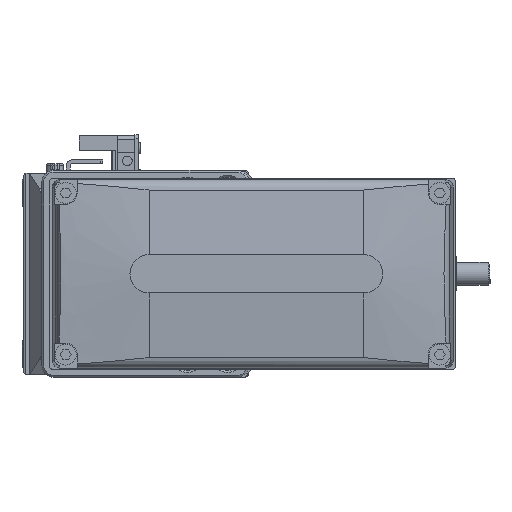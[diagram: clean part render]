
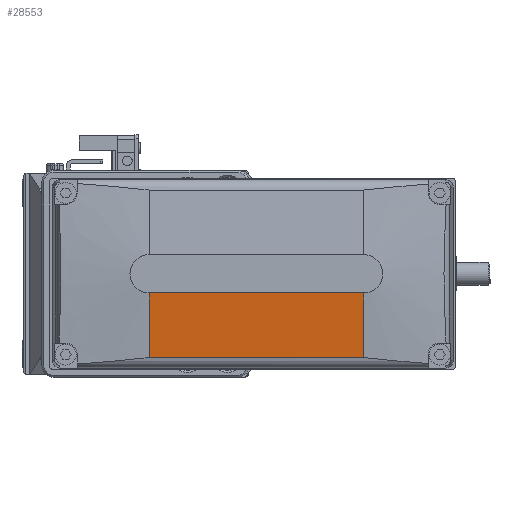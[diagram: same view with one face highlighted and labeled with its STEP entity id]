
A CAD part, left-side view. The second image highlights one B-rep face of the part: STEP entity #28553.
In plain terms, the highlighted planar face has unit normal (-0.996, 0, -0.087).
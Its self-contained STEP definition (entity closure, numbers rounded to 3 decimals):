
#1011 = VERTEX_POINT ( 'NONE', #8235 ) ;
#3229 = LINE ( 'NONE', #34345, #18058 ) ;
#3544 = LINE ( 'NONE', #3629, #8931 ) ;
#3629 = CARTESIAN_POINT ( 'NONE',  ( -50., 128., -5. ) ) ;
#4085 = EDGE_CURVE ( 'NONE', #1011, #9548, #3544, .T. ) ;
#7512 = DIRECTION ( 'NONE',  ( -0.087, 0., 0.996 ) ) ;
#7535 = EDGE_CURVE ( 'NONE', #12889, #9548, #20914, .T. ) ;
#7768 = PLANE ( 'NONE',  #24725 ) ;
#7875 = FACE_OUTER_BOUND ( 'NONE', #25224, .T. ) ;
#8235 = CARTESIAN_POINT ( 'NONE',  ( -50., -28., -5. ) ) ;
#8931 = VECTOR ( 'NONE', #29694, 1000. ) ;
#9548 = VERTEX_POINT ( 'NONE', #30185 ) ;
#11849 = ORIENTED_EDGE ( 'NONE', *, *, #30460, .F. ) ;
#12889 = VERTEX_POINT ( 'NONE', #33645 ) ;
#14137 = ORIENTED_EDGE ( 'NONE', *, *, #35067, .F. ) ;
#15245 = CARTESIAN_POINT ( 'NONE',  ( 43606.406, 28., -499000. ) ) ;
#15247 = VERTEX_POINT ( 'NONE', #36377 ) ;
#18058 = VECTOR ( 'NONE', #37203, 1000. ) ;
#18371 = ORIENTED_EDGE ( 'NONE', *, *, #7535, .F. ) ;
#18551 = DIRECTION ( 'NONE',  ( 0., 1., 0. ) ) ;
#20914 = LINE ( 'NONE', #15245, #35210 ) ;
#21844 = CARTESIAN_POINT ( 'NONE',  ( -48.525, 128., -21.861 ) ) ;
#24233 = LINE ( 'NONE', #21844, #33141 ) ;
#24725 = AXIS2_PLACEMENT_3D ( 'NONE', #27789, #27281, #7512 ) ;
#25224 = EDGE_LOOP ( 'NONE', ( #18371, #14137, #11849, #32859 ) ) ;
#27281 = DIRECTION ( 'NONE',  ( -0.996, 0., -0.087 ) ) ;
#27789 = CARTESIAN_POINT ( 'NONE',  ( -50., 128., -5. ) ) ;
#28553 = ADVANCED_FACE ( 'NONE', ( #7875 ), #7768, .T. ) ;
#29694 = DIRECTION ( 'NONE',  ( 0., 1., 0. ) ) ;
#30185 = CARTESIAN_POINT ( 'NONE',  ( -50., 28., -5. ) ) ;
#30460 = EDGE_CURVE ( 'NONE', #1011, #15247, #3229, .T. ) ;
#32859 = ORIENTED_EDGE ( 'NONE', *, *, #4085, .T. ) ;
#33141 = VECTOR ( 'NONE', #18551, 1000. ) ;
#33645 = CARTESIAN_POINT ( 'NONE',  ( -48.525, 28., -21.861 ) ) ;
#34345 = CARTESIAN_POINT ( 'NONE',  ( 43606.406, -28., -499000. ) ) ;
#35067 = EDGE_CURVE ( 'NONE', #15247, #12889, #24233, .T. ) ;
#35210 = VECTOR ( 'NONE', #35248, 1000. ) ;
#35248 = DIRECTION ( 'NONE',  ( -0.087, 0., 0.996 ) ) ;
#36377 = CARTESIAN_POINT ( 'NONE',  ( -48.525, -28., -21.861 ) ) ;
#37203 = DIRECTION ( 'NONE',  ( 0.087, 0., -0.996 ) ) ;
